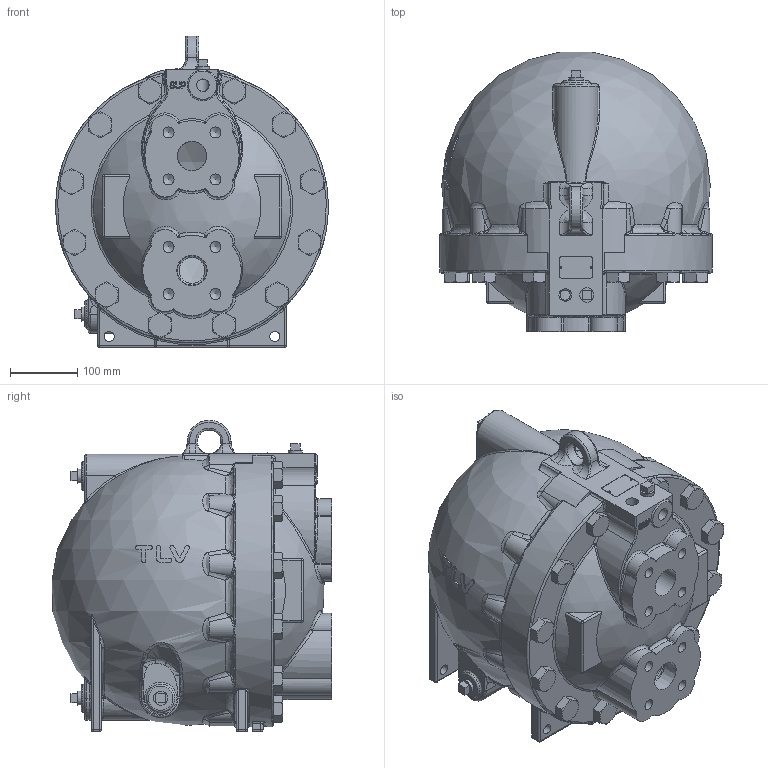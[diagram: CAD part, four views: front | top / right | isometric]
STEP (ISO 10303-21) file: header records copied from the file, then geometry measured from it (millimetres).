
FILE_DESCRIPTION(/* description */ (''),/* implementation_level */ '2;1');
FILE_NAME(/* name */ 'H:\nakaot\Inventor\COS\GPGT\gt14m-040-a0300-02.stp',/* time_stamp */ '2019-10-18T11:17:02+09:00',/* author */ ('nakaot'),/* organization */ (''),/* preprocessor_version */ 'ST-DEVELOPER v18',/* originating_system */ 'Autodesk Inventor 2020',/* authorisation */ '');
FILE_SCHEMA (('AUTOMOTIVE_DESIGN { 1 0 10303 214 3 1 1 }'));
Products named in the file (1): gt14m-040-a0300-02
Bounding box: 404.94 x 414.9 x 463 mm (x, y, z)
Volume: 11142926.5 mm3; surface area: 1276684.2 mm2
Topology: 1 solids, 17 shells, 1277 faces, 3196 edges, 1892 vertices
Faces by surface type: bspline 368, plane 303, cylinder 262, torus 159, cone 111, sphere 74
Full cylindrical faces by diameter (mm): 1.6 x2, 2 x2, 2.6 x2, 10.106 x4, 14.95 x2, 15 x4, 16.307 x8, 17.294 x12, 17.5 x2, 18.631 x3, 35 x1, 43.5 x2, 60 x1, 302 x1
Entity records: 68201 total; most frequent: CARTESIAN_POINT 39317, ORIENTED_EDGE 6172, DIRECTION 5229, EDGE_CURVE 3086, AXIS2_PLACEMENT_3D 2265, VERTEX_POINT 1892, EDGE_LOOP 1346, CIRCLE 1300
